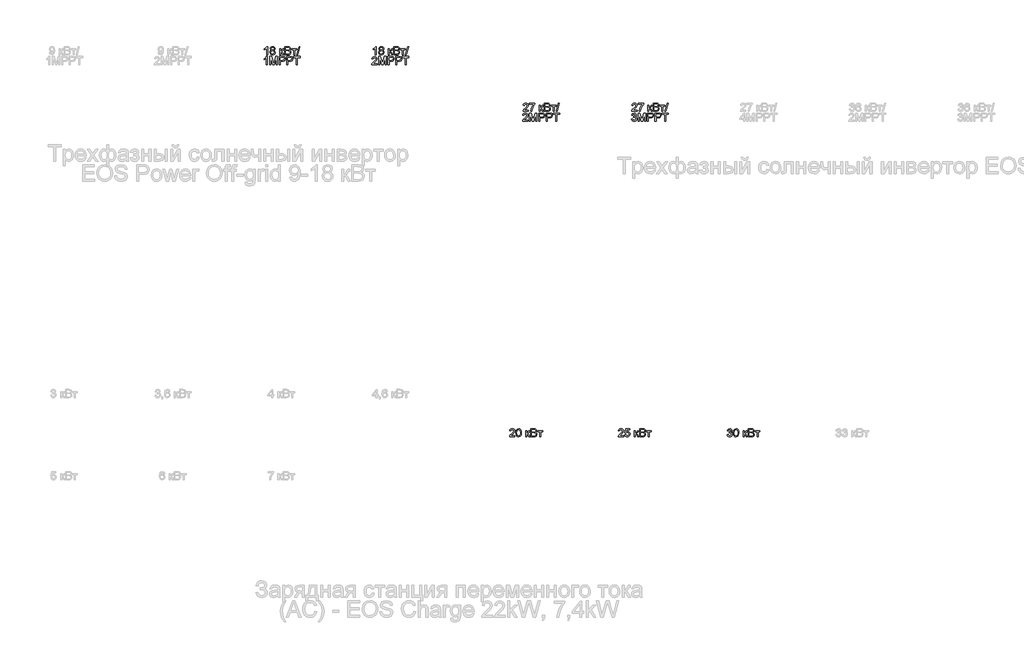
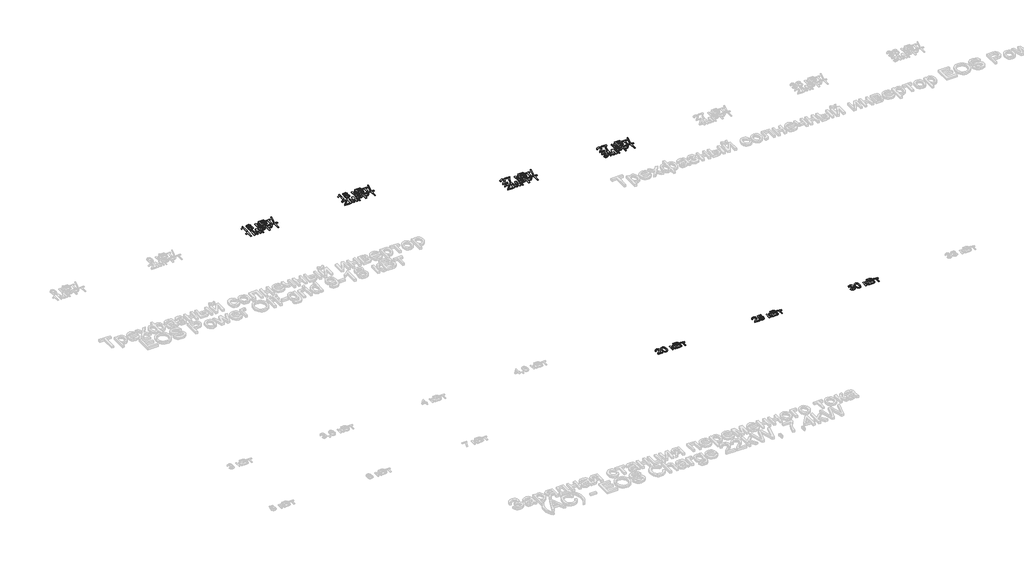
# One storey, part 6 of 26: 7 proxies.
"""IFC4 building model written with IfcOpenShell, lengths in millimetres."""

import ifcopenshell
import ifcopenshell.guid

model = None  # the IFC model being written
_history = None  # IfcOwnerHistory: only IFC2X3 demands one
_inside = {}  # id of a spatial element -> (the spatial element, [elements in it])
_under = {}  # id of a project, library or spatial element -> (it, [spatial elements below it])
_declared = {}  # id of a project -> (the project, [libraries it declares])
_typed = {}  # id of a type object -> (the type object, [elements of that type])
_made_of = {}  # id of a material, layer set ... -> (it, [elements and type objects made of it])


def new_model(schema):
    """Start an empty IFC model of exactly this schema.

    Asked for "IFC4X3", IfcOpenShell would pick the latest addendum, in which some entities
    have other attributes; the version numbers below select the first issue.
    IFC2X3 requires an IfcOwnerHistory on every rooted entity: one is made here for all.
    """
    global model, _history
    if schema == "IFC4X3":
        model = ifcopenshell.file(schema_version=(4, 3, 0, 0))
    else:
        model = ifcopenshell.file(schema=schema)
    _inside.clear()
    _under.clear()
    _declared.clear()
    _typed.clear()
    _made_of.clear()
    _history = None
    if model.schema == "IFC2X3":
        org = make("IfcOrganization", Name="unknown")
        user = make(
            "IfcPersonAndOrganization",
            ThePerson=make("IfcPerson", FamilyName="unknown"),
            TheOrganization=org,
        )
        app = make(
            "IfcApplication",
            ApplicationDeveloper=org,
            Version="unknown",
            ApplicationFullName="unknown",
            ApplicationIdentifier="unknown",
        )
        _history = make(
            "IfcOwnerHistory",
            OwningUser=user,
            OwningApplication=app,
            ChangeAction="ADDED",
            CreationDate=0,
        )
    return model


def make(cls, **values):
    """One entity of the class cls with the attributes given. An attribute that is None is left unset."""
    return model.create_entity(
        cls, **{name: value for name, value in values.items() if value is not None}
    )


def rooted(cls, **values):
    """An entity with a GlobalId (a new one), such as an element, a storey or a relation."""
    return make(cls, GlobalId=ifcopenshell.guid.new(), OwnerHistory=_history, **values)


def si_unit(unit_type, name, prefix=None):
    """IfcSIUnit, for example si_unit("LENGTHUNIT", "METRE", prefix="MILLI")."""
    return make("IfcSIUnit", UnitType=unit_type, Prefix=prefix, Name=name)


def assignment(units):
    """IfcUnitAssignment: the units of a project."""
    return None if units is None else make("IfcUnitAssignment", Units=units)


def point(xyz):
    """IfcCartesianPoint."""
    return None if xyz is None else make("IfcCartesianPoint", Coordinates=xyz)


def direction(xyz):
    """IfcDirection."""
    return None if xyz is None else make("IfcDirection", DirectionRatios=xyz)


def frame(location, z_axis=None, x_axis=None):
    """IfcAxis2Placement3D, a coordinate frame: its origin and axes. An axis left out is left unset."""
    return make(
        "IfcAxis2Placement3D",
        Location=point(location),
        Axis=direction(z_axis),
        RefDirection=direction(x_axis),
    )


def origin():
    """The frame at (0, 0, 0) with its axes left unset."""
    return frame((0.0, 0.0, 0.0))


def origin_with_axes():
    """The frame at (0, 0, 0) with the z axis (0, 0, 1) and the x axis (1, 0, 0) written out."""
    return frame((0.0, 0.0, 0.0), z_axis=(0.0, 0.0, 1.0), x_axis=(1.0, 0.0, 0.0))


def place(relative_to, where):
    """IfcLocalPlacement: puts the frame where relative to a parent placement (None: the world)."""
    return make(
        "IfcLocalPlacement", PlacementRelTo=relative_to, RelativePlacement=where
    )


def context(
    kind, dimensions, precision=None, world=None, true_north=None, identifier=None
):
    """IfcGeometricRepresentationContext, for example the 3D "Model" context."""
    return make(
        "IfcGeometricRepresentationContext",
        ContextIdentifier=identifier,
        ContextType=kind,
        CoordinateSpaceDimension=dimensions,
        Precision=precision,
        WorldCoordinateSystem=world,
        TrueNorth=true_north,
    )


def project(units=None, contexts=None):
    """IfcProject with its units and contexts."""
    return rooted(
        "IfcProject",
        Name="project",
        RepresentationContexts=contexts,
        UnitsInContext=assignment(units),
    )


def spatial(cls, under=None, at=None, **own):
    """A site, building, storey or space (cls), placed at a placement, below another one or the project."""
    s = rooted(cls, ObjectPlacement=at, **own)
    if under is not None:
        _under.setdefault(under.id(), (under, []))[1].append(s)
    return s


def polyline(points):
    """IfcPolyline through the points."""
    return make("IfcPolyline", Points=[point(p) for p in points])


def outline(outer, holes=None, kind="AREA"):
    """IfcArbitraryClosedProfileDef: a profile drawn as a closed curve; with holes, ...WithVoids."""
    if holes is None:
        return make("IfcArbitraryClosedProfileDef", ProfileType=kind, OuterCurve=outer)
    return make(
        "IfcArbitraryProfileDefWithVoids",
        ProfileType=kind,
        OuterCurve=outer,
        InnerCurves=holes,
    )


def extrude(swept, where, along, depth):
    """IfcExtrudedAreaSolid: the profile swept, set in the frame where, extruded along a direction by depth."""
    return make(
        "IfcExtrudedAreaSolid",
        SweptArea=swept,
        Position=where,
        ExtrudedDirection=direction(along),
        Depth=depth,
    )


def shape(context_of_items, identifier, shape_type, items):
    """IfcShapeRepresentation: the items that make up one representation, for example the "Body"."""
    return make(
        "IfcShapeRepresentation",
        ContextOfItems=context_of_items,
        RepresentationIdentifier=identifier,
        RepresentationType=shape_type,
        Items=items,
    )


def made_of(thing, what):
    """Note that an element or type object is made of a material, layer set ...; save() writes the relation."""
    if what is not None:
        _made_of.setdefault(what.id(), (what, []))[1].append(thing)
    return thing


def element(
    cls,
    number,
    at=None,
    inside=None,
    cuts=None,
    type_object=None,
    material=None,
    context=None,
    identifier="Body",
    shape_type=None,
    held_by="IfcProductDefinitionShape",
    body=None,
    shapes=None,
    **own,
):
    """One element of the class cls, such as IfcWall. Its Tag is "e" and its number.

    at: its placement. inside: the storey or other place that contains it. cuts: it is an
    opening in that element (IfcRelVoidsElement). A single representation is given by context,
    identifier, shape_type and body (its items); several are given by shapes. held_by: the class
    of the entity that holds the representations. save() writes the other relations.
    """
    e = rooted(cls, Tag="e%d" % number, ObjectPlacement=at, **own)
    if body is not None:
        shapes = [shape(context, identifier, shape_type, body)]
    if shapes is not None:
        e.Representation = make(held_by, Representations=shapes)
    if inside is not None:
        _inside.setdefault(inside.id(), (inside, []))[1].append(e)
    if cuts is not None:
        rooted(
            "IfcRelVoidsElement", RelatingBuildingElement=cuts, RelatedOpeningElement=e
        )
    if type_object is not None:
        _typed.setdefault(type_object.id(), (type_object, []))[1].append(e)
    return made_of(e, material)


def aggregate(whole, parts):
    """IfcRelAggregates: a whole, such as a stair, and the parts it consists of."""
    return rooted("IfcRelAggregates", RelatingObject=whole, RelatedObjects=parts)


def save(model, path):
    """Write the relations noted so far, then the file.

    IfcRelAggregates (storeys below a building ...), IfcRelContainedInSpatialStructure (elements
    in a storey), IfcRelDefinesByType, IfcRelAssociatesMaterial and IfcRelDeclares: one each for
    every whole, place, type object, material and project.
    """
    for whole, parts in _under.values():
        aggregate(whole, parts)
    for where, things in _inside.values():
        rooted(
            "IfcRelContainedInSpatialStructure",
            RelatedElements=things,
            RelatingStructure=where,
        )
    for kind, things in _typed.values():
        rooted("IfcRelDefinesByType", RelatedObjects=things, RelatingType=kind)
    for what, things in _made_of.values():
        rooted("IfcRelAssociatesMaterial", RelatedObjects=things, RelatingMaterial=what)
    for by, libraries in _declared.values():
        rooted("IfcRelDeclares", RelatingContext=by, RelatedDefinitions=libraries)
    model.write(path)


model = new_model("IFC4")

# Units and contexts
model_context = context("Model", 3, world=origin())
ifc_project = project(units=[si_unit("LENGTHUNIT", "METRE", prefix="MILLI")], contexts=[model_context])

# Site, building, storey
site = spatial("IfcSite", under=ifc_project)
building = spatial("IfcBuilding", under=site)
storey = spatial("IfcBuildingStorey", under=building, Name="Этаж 01", Elevation=0.0)

# Proxies
placement = place(None, origin())
element("IfcBuildingElementProxy", 1, Name="75 мм Arial", ObjectType="75 мм Arial", at=placement, inside=storey, context=model_context, shape_type="SweptSolid", body=[
    extrude(outline(polyline([(5131.8157021, -19645.2842708), (5131.8157021, -19654.7020499), (5082.3723619, -19654.7020499), (5083.3840374, -19648.2089327), (5089.1046024, -19638.2117395), (5100.8952204, -19627.2948413), (5117.1556046, -19611.6046742), (5121.2207006, -19600.9360963), (5117.3855308, -19592.3000665), (5107.3699435, -19588.7775964), (5096.9312919, -19592.217293), (5092.9673634, -19601.7270426), (5083.5495843, -19600.5498202), (5085.8327519, -19591.4401423), (5090.7692685, -19584.7860767), (5098.1016165, -19580.7163821), (5107.5722786, -19579.3598173), (5117.1119186, -19580.8681335), (5124.430471, -19585.393082), (5129.0864775, -19592.1529137), (5130.6384797, -19600.3658792), (5128.9646166, -19609.2962146), (5123.4004014, -19618.5300527), (5109.9083293, -19631.4335137), (5099.0742045, -19640.4926078), (5094.8251675, -19645.2842708), (5131.8157021, -19645.2842708)])), origin_with_axes(), (0.0, 0.0, 1.0), 5.0),
    extrude(outline(polyline([(5141.2334812, -19617.6379389), (5144.0017932, -19595.9604923), (5152.2239558, -19583.4617015), (5165.9551512, -19579.3598173), (5176.9548229, -19581.7878385), (5184.5515861, -19588.7867934), (5188.96617, -19599.9336179), (5190.6768213, -19617.6379389), (5187.9361004, -19639.223415), (5179.741529, -19651.7497969), (5165.9551512, -19655.8792723), (5156.1694902, -19654.0858476), (5148.7382739, -19648.7055734), (5143.1096793, -19635.9630608), (5141.2334812, -19617.6379389)]), holes=[polyline([(5150.6512602, -19617.6195448), (5151.7549062, -19632.4336929), (5155.0658442, -19641.0076426), (5165.9551512, -19646.4614932), (5176.8444583, -19640.9892485), (5180.1553962, -19632.4107003), (5181.2590422, -19617.6195448), (5176.9916111, -19594.4981614), (5165.8447866, -19588.7775964), (5155.212997, -19593.8175797), (5151.7916944, -19602.9962355), (5150.6512602, -19617.6195448)])]), origin_with_axes(), (0.0, 0.0, 1.0), 5.0),
    extrude(outline(polyline([(5230.7023824, -19599.3725978), (5240.1201615, -19599.3725978), (5240.1201615, -19622.9170455), (5246.4293377, -19621.2247883), (5251.5980797, -19611.3655509), (5255.893102, -19602.8582797), (5259.6822866, -19600.0899677), (5266.5708769, -19599.3725978), (5268.3734987, -19599.3725978), (5268.3734987, -19608.8455592), (5265.8351129, -19608.7903769), (5261.236588, -19609.7836583), (5257.9992264, -19615.9824699), (5254.2008448, -19622.6871193), (5248.8757529, -19625.9704661), (5260.6479768, -19637.3564138), (5270.7279435, -19654.7020499), (5260.0225774, -19654.7020499), (5250.1449458, -19637.7242958), (5245.1785389, -19630.5413999), (5240.1201615, -19628.8031574), (5240.1201615, -19654.7020499), (5230.7023824, -19654.7020499), (5230.7023824, -19599.3725978)])), origin_with_axes(), (0.0, 0.0, 1.0), 5.0),
    extrude(outline(polyline([(5277.7912778, -19654.7020499), (5277.7912778, -19579.3598173), (5306.5412557, -19579.3598173), (5320.6219391, -19581.5763063), (5328.9360721, -19588.3913203), (5331.9435075, -19598.0298285), (5329.4143187, -19606.8314053), (5321.7715703, -19613.4992664), (5331.0513936, -19620.5258125), (5334.2979522, -19632.2428541), (5332.0814632, -19642.368806), (5326.5908244, -19649.5792931), (5318.396253, -19653.4052659), (5306.3205265, -19654.7020499), (5277.7912778, -19654.7020499)]), holes=[polyline([(5287.2090568, -19645.2842708), (5306.5228616, -19645.2842708), (5313.5126195, -19644.9163888), (5319.4263226, -19642.8654467), (5323.3442658, -19638.680789), (5324.8801731, -19632.3348246), (5323.0775514, -19625.0139729), (5317.2374247, -19620.6453742), (5305.6031566, -19619.3853784), (5287.2090568, -19619.3853784), (5287.2090568, -19645.2842708)]), polyline([(5287.2090568, -19609.9675993), (5304.4075401, -19609.9675993), (5314.4507186, -19609.1582589), (5320.4931804, -19605.672577), (5322.5257284, -19599.5381447), (5320.6311361, -19593.3945154), (5315.2048767, -19589.7616807), (5303.101559, -19588.7775964), (5287.2090568, -19588.7775964), (5287.2090568, -19609.9675993)])]), origin_with_axes(), (0.0, 0.0, 1.0), 5.0),
    extrude(outline(polyline([(5341.3612865, -19599.3725978), (5386.0957371, -19599.3725978), (5386.0957371, -19608.7903769), (5368.4374014, -19608.7903769), (5368.4374014, -19654.7020499), (5359.0196223, -19654.7020499), (5359.0196223, -19608.7903769), (5341.3612865, -19608.7903769), (5341.3612865, -19599.3725978)])), origin_with_axes(), (0.0, 0.0, 1.0), 5.0),
])
element("IfcBuildingElementProxy", 2, Name="75 мм Arial", ObjectType="75 мм Arial", at=placement, inside=storey, context=model_context, shape_type="SweptSolid", body=[
    extrude(outline(polyline([(6131.8157021, -19645.2842708), (6131.8157021, -19654.7020499), (6082.3723619, -19654.7020499), (6083.3840374, -19648.2089327), (6089.1046024, -19638.2117395), (6100.8952204, -19627.2948413), (6117.1556046, -19611.6046742), (6121.2207006, -19600.9360963), (6117.3855308, -19592.3000665), (6107.3699435, -19588.7775964), (6096.9312919, -19592.217293), (6092.9673634, -19601.7270426), (6083.5495843, -19600.5498202), (6085.8327519, -19591.4401423), (6090.7692685, -19584.7860767), (6098.1016165, -19580.7163821), (6107.5722786, -19579.3598173), (6117.1119186, -19580.8681335), (6124.430471, -19585.393082), (6129.0864775, -19592.1529137), (6130.6384797, -19600.3658792), (6128.9646166, -19609.2962146), (6123.4004014, -19618.5300527), (6109.9083293, -19631.4335137), (6099.0742045, -19640.4926078), (6094.8251675, -19645.2842708), (6131.8157021, -19645.2842708)])), origin_with_axes(), (0.0, 0.0, 1.0), 5.0),
    extrude(outline(polyline([(6141.2334812, -19634.6892694), (6150.6512602, -19633.512047), (6155.396938, -19643.2149346), (6165.2377813, -19646.4614932), (6177.0467934, -19641.9457417), (6181.2590422, -19629.9619857), (6177.3135078, -19618.7783731), (6165.3849341, -19614.6764888), (6157.1167863, -19616.3135637), (6151.8284826, -19620.5626007), (6142.4107035, -19619.3853784), (6150.6512602, -19580.5370397), (6187.1451542, -19580.5370397), (6187.1451542, -19589.9548187), (6158.2664175, -19589.9548187), (6154.2381097, -19610.7033633), (6168.0152904, -19605.2587097), (6176.8145679, -19606.9463684), (6184.1193247, -19612.0093444), (6189.0374472, -19619.7256692), (6190.6768213, -19629.3733745), (6189.2006948, -19638.7911536), (6184.7723153, -19646.8477693), (6176.2926353, -19653.6213965), (6165.2009931, -19655.8792723), (6155.9510602, -19654.4284377), (6148.581924, -19650.0759338), (6143.5304444, -19643.3275985), (6141.2334812, -19634.6892694)])), origin_with_axes(), (0.0, 0.0, 1.0), 5.0),
    extrude(outline(polyline([(6230.7023824, -19599.3725978), (6240.1201615, -19599.3725978), (6240.1201615, -19622.9170455), (6246.4293377, -19621.2247883), (6251.5980797, -19611.3655509), (6255.893102, -19602.8582797), (6259.6822866, -19600.0899677), (6266.5708769, -19599.3725978), (6268.3734987, -19599.3725978), (6268.3734987, -19608.8455592), (6265.8351129, -19608.7903769), (6261.236588, -19609.7836583), (6257.9992264, -19615.9824699), (6254.2008448, -19622.6871193), (6248.8757529, -19625.9704661), (6260.6479768, -19637.3564138), (6270.7279435, -19654.7020499), (6260.0225774, -19654.7020499), (6250.1449458, -19637.7242958), (6245.1785389, -19630.5413999), (6240.1201615, -19628.8031574), (6240.1201615, -19654.7020499), (6230.7023824, -19654.7020499), (6230.7023824, -19599.3725978)])), origin_with_axes(), (0.0, 0.0, 1.0), 5.0),
    extrude(outline(polyline([(6277.7912778, -19654.7020499), (6277.7912778, -19579.3598173), (6306.5412557, -19579.3598173), (6320.6219391, -19581.5763063), (6328.9360721, -19588.3913203), (6331.9435075, -19598.0298285), (6329.4143187, -19606.8314053), (6321.7715703, -19613.4992664), (6331.0513936, -19620.5258125), (6334.2979522, -19632.2428541), (6332.0814632, -19642.368806), (6326.5908244, -19649.5792931), (6318.396253, -19653.4052659), (6306.3205265, -19654.7020499), (6277.7912778, -19654.7020499)]), holes=[polyline([(6287.2090568, -19645.2842708), (6306.5228616, -19645.2842708), (6313.5126195, -19644.9163888), (6319.4263226, -19642.8654467), (6323.3442658, -19638.680789), (6324.8801731, -19632.3348246), (6323.0775514, -19625.0139729), (6317.2374247, -19620.6453742), (6305.6031566, -19619.3853784), (6287.2090568, -19619.3853784), (6287.2090568, -19645.2842708)]), polyline([(6287.2090568, -19609.9675993), (6304.4075401, -19609.9675993), (6314.4507186, -19609.1582589), (6320.4931804, -19605.672577), (6322.5257284, -19599.5381447), (6320.6311361, -19593.3945154), (6315.2048767, -19589.7616807), (6303.101559, -19588.7775964), (6287.2090568, -19588.7775964), (6287.2090568, -19609.9675993)])]), origin_with_axes(), (0.0, 0.0, 1.0), 5.0),
    extrude(outline(polyline([(6341.3612865, -19599.3725978), (6386.0957371, -19599.3725978), (6386.0957371, -19608.7903769), (6368.4374014, -19608.7903769), (6368.4374014, -19654.7020499), (6359.0196223, -19654.7020499), (6359.0196223, -19608.7903769), (6341.3612865, -19608.7903769), (6341.3612865, -19599.3725978)])), origin_with_axes(), (0.0, 0.0, 1.0), 5.0),
])
element("IfcBuildingElementProxy", 3, Name="75 мм Arial", ObjectType="75 мм Arial", at=placement, inside=storey, context=model_context, shape_type="SweptSolid", body=[
    extrude(outline(polyline([(7083.027027, -19634.6892694), (7092.444806, -19633.512047), (7097.6411392, -19643.4264667), (7107.3624209, -19646.4614932), (7118.803551, -19642.2860326), (7123.052588, -19631.9485485), (7118.8403392, -19622.2088727), (7108.1349731, -19618.3553088), (7101.5314913, -19619.3853784), (7102.579955, -19609.9675993), (7114.7752431, -19607.3740312), (7119.5209209, -19599.0598981), (7116.0812242, -19591.6930612), (7107.2152681, -19588.7775964), (7098.2389475, -19591.7206523), (7093.6220284, -19600.5498202), (7084.2042493, -19599.3725978), (7091.9113771, -19584.6021357), (7106.8841743, -19579.3598173), (7118.2425309, -19581.9441883), (7126.188782, -19589.0075226), (7128.9387, -19598.5080751), (7126.3267378, -19607.1900902), (7118.6012159, -19613.42569), (7128.8651236, -19619.863625), (7132.4703671, -19632.1140954), (7130.6677453, -19641.2927512), (7125.25988, -19648.9630908), (7117.0974982, -19654.1502269), (7107.0313271, -19655.8792723), (7097.9262478, -19654.4031458), (7090.5134256, -19649.9747663), (7085.3584791, -19643.201139), (7083.027027, -19634.6892694)])), origin_with_axes(), (0.0, 0.0, 1.0), 5.0),
    extrude(outline(polyline([(7140.7109238, -19617.6379389), (7143.4792358, -19595.9604923), (7151.7013984, -19583.4617015), (7165.4325939, -19579.3598173), (7176.4322655, -19581.7878385), (7184.0290287, -19588.7867934), (7188.4436127, -19599.9336179), (7190.154264, -19617.6379389), (7187.4135431, -19639.223415), (7179.2189716, -19651.7497969), (7165.4325939, -19655.8792723), (7155.6469328, -19654.0858476), (7148.2157165, -19648.7055734), (7142.587122, -19635.9630608), (7140.7109238, -19617.6379389)]), holes=[polyline([(7150.1287029, -19617.6195448), (7151.2323489, -19632.4336929), (7154.5432868, -19641.0076426), (7165.4325939, -19646.4614932), (7176.3219009, -19640.9892485), (7179.6328389, -19632.4107003), (7180.7364849, -19617.6195448), (7176.4690537, -19594.4981614), (7165.3222293, -19588.7775964), (7154.6904396, -19593.8175797), (7151.2691371, -19602.9962355), (7150.1287029, -19617.6195448)])]), origin_with_axes(), (0.0, 0.0, 1.0), 5.0),
    extrude(outline(polyline([(7230.179825, -19599.3725978), (7239.5976041, -19599.3725978), (7239.5976041, -19622.9170455), (7245.9067803, -19621.2247883), (7251.0755224, -19611.3655509), (7255.3705447, -19602.8582797), (7259.1597292, -19600.0899677), (7266.0483196, -19599.3725978), (7267.8509413, -19599.3725978), (7267.8509413, -19608.8455592), (7265.3125556, -19608.7903769), (7260.7140306, -19609.7836583), (7257.4766691, -19615.9824699), (7253.6782875, -19622.6871193), (7248.3531956, -19625.9704661), (7260.1254194, -19637.3564138), (7270.2053861, -19654.7020499), (7259.50002, -19654.7020499), (7249.6223885, -19637.7242958), (7244.6559815, -19630.5413999), (7239.5976041, -19628.8031574), (7239.5976041, -19654.7020499), (7230.179825, -19654.7020499), (7230.179825, -19599.3725978)])), origin_with_axes(), (0.0, 0.0, 1.0), 5.0),
    extrude(outline(polyline([(7277.2687204, -19654.7020499), (7277.2687204, -19579.3598173), (7306.0186983, -19579.3598173), (7320.0993817, -19581.5763063), (7328.4135148, -19588.3913203), (7331.4209501, -19598.0298285), (7328.8917614, -19606.8314053), (7321.2490129, -19613.4992664), (7330.5288363, -19620.5258125), (7333.7753949, -19632.2428541), (7331.5589059, -19642.368806), (7326.0682671, -19649.5792931), (7317.8736956, -19653.4052659), (7305.7979691, -19654.7020499), (7277.2687204, -19654.7020499)]), holes=[polyline([(7286.6864995, -19645.2842708), (7306.0003042, -19645.2842708), (7312.9900621, -19644.9163888), (7318.9037652, -19642.8654467), (7322.8217085, -19638.680789), (7324.3576158, -19632.3348246), (7322.554994, -19625.0139729), (7316.7148673, -19620.6453742), (7305.0805992, -19619.3853784), (7286.6864995, -19619.3853784), (7286.6864995, -19645.2842708)]), polyline([(7286.6864995, -19609.9675993), (7303.8849828, -19609.9675993), (7313.9281612, -19609.1582589), (7319.970623, -19605.672577), (7322.003171, -19599.5381447), (7320.1085788, -19593.3945154), (7314.6823193, -19589.7616807), (7302.5790017, -19588.7775964), (7286.6864995, -19588.7775964), (7286.6864995, -19609.9675993)])]), origin_with_axes(), (0.0, 0.0, 1.0), 5.0),
    extrude(outline(polyline([(7340.8387292, -19599.3725978), (7385.5731798, -19599.3725978), (7385.5731798, -19608.7903769), (7367.914844, -19608.7903769), (7367.914844, -19654.7020499), (7358.4970649, -19654.7020499), (7358.4970649, -19608.7903769), (7340.8387292, -19608.7903769), (7340.8387292, -19599.3725978)])), origin_with_axes(), (0.0, 0.0, 1.0), 5.0),
])
element("IfcBuildingElementProxy", 4, Name="75 мм Arial", ObjectType="75 мм Arial", at=placement, inside=storey, context=model_context, shape_type="SweptSolid", body=[
    extrude(outline(polyline([(2856.8752257, -16141.5170063), (2847.4574467, -16141.5170063), (2847.4574467, -16082.8030399), (2838.5363083, -16089.1582014), (2828.6218885, -16093.9130761), (2828.6218885, -16085.0103319), (2842.4266604, -16076.1995581), (2850.8051728, -16066.1747737), (2856.8752257, -16066.1747737), (2856.8752257, -16141.5170063)])), origin_with_axes(), (0.0, 0.0, 1.0), 5.0),
    extrude(outline(polyline([(2892.9644495, -16100.0199173), (2884.3836019, -16094.1705935), (2881.5968958, -16085.0655142), (2883.114409, -16077.7032757), (2887.6669487, -16071.6194272), (2894.7440786, -16067.5359371), (2903.8353624, -16066.1747737), (2912.9818285, -16067.5681268), (2920.1509289, -16071.7481859), (2924.786242, -16077.9286035), (2926.3313464, -16085.3230316), (2923.5814285, -16094.1981847), (2915.2397043, -16100.0199173), (2925.2552916, -16107.4051483), (2928.6857912, -16119.5912394), (2926.984337, -16128.5951512), (2921.8799743, -16136.0355646), (2913.9981025, -16141.0295627), (2903.9641211, -16142.6942287), (2893.9301397, -16141.0226649), (2886.048268, -16136.0079734), (2880.9439053, -16128.496283), (2879.242451, -16119.333722), (2882.8109064, -16106.8625224), (2892.9644495, -16100.0199173)]), holes=[polyline([(2888.6602301, -16119.0026282), (2890.2329256, -16126.0935537), (2895.7971408, -16131.4002515), (2904.0376975, -16133.2764496), (2915.2580984, -16129.3309152), (2919.2680121, -16119.2969338), (2915.1293397, -16109.0698143), (2903.7249978, -16105.0231124), (2892.6425527, -16109.014632), (2888.6602301, -16119.0026282)]), polyline([(2891.0146749, -16085.3414257), (2894.353204, -16092.7358538), (2904.0744857, -16095.6053333), (2913.6026294, -16092.7542479), (2916.9135673, -16085.76449), (2913.4922648, -16078.5264117), (2903.9641211, -16075.5925528), (2894.4083863, -16078.4620323), (2891.0146749, -16085.3414257)])]), origin_with_axes(), (0.0, 0.0, 1.0), 5.0),
    extrude(outline(polyline([(2968.7113523, -16086.1875542), (2978.1291313, -16086.1875542), (2978.1291313, -16109.7320019), (2984.4383076, -16108.0397448), (2989.6070496, -16098.1805073), (2993.9020719, -16089.6732362), (2997.6912564, -16086.9049241), (3004.5798468, -16086.1875542), (3006.3824686, -16086.1875542), (3006.3824686, -16095.6605156), (3003.8440828, -16095.6053333), (2999.2455579, -16096.5986147), (2996.0081963, -16102.7974263), (2992.2098147, -16109.5020757), (2986.8847228, -16112.7854225), (2998.6569467, -16124.1713703), (3008.7369133, -16141.5170063), (2998.0315473, -16141.5170063), (2988.1539157, -16124.5392522), (2983.1875088, -16117.3563563), (2978.1291313, -16115.6181139), (2978.1291313, -16141.5170063), (2968.7113523, -16141.5170063), (2968.7113523, -16086.1875542)])), origin_with_axes(), (0.0, 0.0, 1.0), 5.0),
    extrude(outline(polyline([(3015.8002476, -16141.5170063), (3015.8002476, -16066.1747737), (3044.5502256, -16066.1747737), (3058.6309089, -16068.3912627), (3066.945042, -16075.2062767), (3069.9524773, -16084.844785), (3067.4232886, -16093.6463617), (3059.7805402, -16100.3142229), (3069.0603635, -16107.340769), (3072.3069221, -16119.0578105), (3070.0904331, -16129.1837624), (3064.5997943, -16136.3942495), (3056.4052229, -16140.2202223), (3044.3294964, -16141.5170063), (3015.8002476, -16141.5170063)]), holes=[polyline([(3025.2180267, -16132.0992272), (3044.5318315, -16132.0992272), (3051.5215894, -16131.7313453), (3057.4352925, -16129.6804031), (3061.3532357, -16125.4957454), (3062.889143, -16119.149781), (3061.0865213, -16111.8289293), (3055.2463946, -16107.4603306), (3043.6121265, -16106.2003348), (3025.2180267, -16106.2003348), (3025.2180267, -16132.0992272)]), polyline([(3025.2180267, -16096.7825557), (3042.41651, -16096.7825557), (3052.4596885, -16095.9732153), (3058.5021502, -16092.4875334), (3060.5346983, -16086.3531011), (3058.640106, -16080.2094718), (3053.2138466, -16076.5766371), (3041.1105289, -16075.5925528), (3025.2180267, -16075.5925528), (3025.2180267, -16096.7825557)])]), origin_with_axes(), (0.0, 0.0, 1.0), 5.0),
    extrude(outline(polyline([(3079.3702564, -16086.1875542), (3124.104707, -16086.1875542), (3124.104707, -16095.6053333), (3106.4463713, -16095.6053333), (3106.4463713, -16141.5170063), (3097.0285922, -16141.5170063), (3097.0285922, -16095.6053333), (3079.3702564, -16095.6053333), (3079.3702564, -16086.1875542)])), origin_with_axes(), (0.0, 0.0, 1.0), 5.0),
    extrude(outline(polyline([(3125.2819294, -16141.5170063), (3146.4719323, -16066.1747737), (3154.9700064, -16066.1747737), (3133.7800035, -16141.5170063), (3125.2819294, -16141.5170063)])), origin_with_axes(), (0.0, 0.0, 1.0), 5.0),
    extrude(outline(polyline([(2852.7549474, -16232.9981197), (2843.3371683, -16232.9981197), (2843.3371683, -16174.2841533), (2834.4160299, -16180.6393147), (2824.5016102, -16185.3941895), (2824.5016102, -16176.4914452), (2838.306382, -16167.6806715), (2846.6848945, -16157.6558871), (2852.7549474, -16157.6558871), (2852.7549474, -16232.9981197)])), origin_with_axes(), (0.0, 0.0, 1.0), 5.0),
    extrude(outline(polyline([(2878.6538398, -16232.9981197), (2878.6538398, -16157.6558871), (2894.8590417, -16157.6558871), (2910.2732973, -16210.7596531), (2913.3819002, -16221.8512953), (2916.7480204, -16209.8399481), (2931.9047586, -16157.6558871), (2948.1099605, -16157.6558871), (2948.1099605, -16232.9981197), (2938.6921815, -16232.9981197), (2938.6921815, -16167.0736662), (2919.7646528, -16232.9981197), (2906.9991476, -16232.9981197), (2888.0716189, -16167.0736662), (2888.0716189, -16232.9981197), (2878.6538398, -16232.9981197)])), origin_with_axes(), (0.0, 0.0, 1.0), 5.0),
    extrude(outline(polyline([(2964.5910739, -16232.9981197), (2964.5910739, -16157.6558871), (2992.5133174, -16157.6558871), (3003.7705064, -16158.373257), (3012.921571, -16161.8957271), (3018.8536682, -16169.1797906), (3021.0977484, -16179.4528953), (3019.5825344, -16188.332647), (3015.0368925, -16195.7316736), (3006.5365192, -16200.7256717), (2993.1571108, -16202.3903377), (2974.008853, -16202.3903377), (2974.008853, -16232.9981197), (2964.5910739, -16232.9981197)]), holes=[polyline([(2974.008853, -16192.9725586), (2993.7089338, -16192.9725586), (3007.5780851, -16189.5144679), (3011.6799693, -16179.7839891), (3009.2611452, -16171.9848908), (3002.9059837, -16167.7174597), (2993.4882046, -16167.0736662), (2974.008853, -16167.0736662), (2974.008853, -16192.9725586)])]), origin_with_axes(), (0.0, 0.0, 1.0), 5.0),
    extrude(outline(polyline([(3034.0471946, -16232.9981197), (3034.0471946, -16157.6558871), (3061.969438, -16157.6558871), (3073.2266271, -16158.373257), (3082.3776917, -16161.8957271), (3088.3097889, -16169.1797906), (3090.5538691, -16179.4528953), (3089.0386551, -16188.332647), (3084.4930132, -16195.7316736), (3075.9926398, -16200.7256717), (3062.6132315, -16202.3903377), (3043.4649737, -16202.3903377), (3043.4649737, -16232.9981197), (3034.0471946, -16232.9981197)]), holes=[polyline([(3043.4649737, -16192.9725586), (3063.1650545, -16192.9725586), (3077.0342057, -16189.5144679), (3081.13609, -16179.7839891), (3078.7172659, -16171.9848908), (3072.3621044, -16167.7174597), (3062.9443253, -16167.0736662), (3043.4649737, -16167.0736662), (3043.4649737, -16192.9725586)])]), origin_with_axes(), (0.0, 0.0, 1.0), 5.0),
    extrude(outline(polyline([(3122.3388735, -16232.9981197), (3122.3388735, -16167.0736662), (3097.6172034, -16167.0736662), (3097.6172034, -16157.6558871), (3156.4783226, -16157.6558871), (3156.4783226, -16167.0736662), (3131.7566525, -16167.0736662), (3131.7566525, -16232.9981197), (3122.3388735, -16232.9981197)])), origin_with_axes(), (0.0, 0.0, 1.0), 5.0),
])
element("IfcBuildingElementProxy", 5, Name="75 мм Arial", ObjectType="75 мм Arial", at=placement, inside=storey, context=model_context, shape_type="SweptSolid", body=[
    extrude(outline(polyline([(3856.8752257, -16141.5170063), (3847.4574467, -16141.5170063), (3847.4574467, -16082.8030399), (3838.5363083, -16089.1582014), (3828.6218885, -16093.9130761), (3828.6218885, -16085.0103319), (3842.4266604, -16076.1995581), (3850.8051728, -16066.1747737), (3856.8752257, -16066.1747737), (3856.8752257, -16141.5170063)])), origin_with_axes(), (0.0, 0.0, 1.0), 5.0),
    extrude(outline(polyline([(3892.9644495, -16100.0199173), (3884.3836019, -16094.1705935), (3881.5968958, -16085.0655142), (3883.114409, -16077.7032757), (3887.6669487, -16071.6194272), (3894.7440786, -16067.5359371), (3903.8353624, -16066.1747737), (3912.9818285, -16067.5681268), (3920.1509289, -16071.7481859), (3924.786242, -16077.9286035), (3926.3313464, -16085.3230316), (3923.5814285, -16094.1981847), (3915.2397043, -16100.0199173), (3925.2552916, -16107.4051483), (3928.6857912, -16119.5912394), (3926.984337, -16128.5951512), (3921.8799743, -16136.0355646), (3913.9981025, -16141.0295627), (3903.9641211, -16142.6942287), (3893.9301397, -16141.0226649), (3886.048268, -16136.0079734), (3880.9439053, -16128.496283), (3879.242451, -16119.333722), (3882.8109064, -16106.8625224), (3892.9644495, -16100.0199173)]), holes=[polyline([(3888.6602301, -16119.0026282), (3890.2329256, -16126.0935537), (3895.7971408, -16131.4002515), (3904.0376975, -16133.2764496), (3915.2580984, -16129.3309152), (3919.2680121, -16119.2969338), (3915.1293397, -16109.0698143), (3903.7249978, -16105.0231124), (3892.6425527, -16109.014632), (3888.6602301, -16119.0026282)]), polyline([(3891.0146749, -16085.3414257), (3894.353204, -16092.7358538), (3904.0744857, -16095.6053333), (3913.6026294, -16092.7542479), (3916.9135673, -16085.76449), (3913.4922648, -16078.5264117), (3903.9641211, -16075.5925528), (3894.4083863, -16078.4620323), (3891.0146749, -16085.3414257)])]), origin_with_axes(), (0.0, 0.0, 1.0), 5.0),
    extrude(outline(polyline([(3968.7113523, -16086.1875542), (3978.1291313, -16086.1875542), (3978.1291313, -16109.7320019), (3984.4383076, -16108.0397448), (3989.6070496, -16098.1805073), (3993.9020719, -16089.6732362), (3997.6912564, -16086.9049241), (4004.5798468, -16086.1875542), (4006.3824686, -16086.1875542), (4006.3824686, -16095.6605156), (4003.8440828, -16095.6053333), (3999.2455579, -16096.5986147), (3996.0081963, -16102.7974263), (3992.2098147, -16109.5020757), (3986.8847228, -16112.7854225), (3998.6569467, -16124.1713703), (4008.7369133, -16141.5170063), (3998.0315473, -16141.5170063), (3988.1539157, -16124.5392522), (3983.1875088, -16117.3563563), (3978.1291313, -16115.6181139), (3978.1291313, -16141.5170063), (3968.7113523, -16141.5170063), (3968.7113523, -16086.1875542)])), origin_with_axes(), (0.0, 0.0, 1.0), 5.0),
    extrude(outline(polyline([(4015.8002476, -16141.5170063), (4015.8002476, -16066.1747737), (4044.5502256, -16066.1747737), (4058.6309089, -16068.3912627), (4066.945042, -16075.2062767), (4069.9524773, -16084.844785), (4067.4232886, -16093.6463617), (4059.7805402, -16100.3142229), (4069.0603635, -16107.340769), (4072.3069221, -16119.0578105), (4070.0904331, -16129.1837624), (4064.5997943, -16136.3942495), (4056.4052229, -16140.2202223), (4044.3294964, -16141.5170063), (4015.8002476, -16141.5170063)]), holes=[polyline([(4025.2180267, -16132.0992272), (4044.5318315, -16132.0992272), (4051.5215894, -16131.7313453), (4057.4352925, -16129.6804031), (4061.3532357, -16125.4957454), (4062.889143, -16119.149781), (4061.0865213, -16111.8289293), (4055.2463946, -16107.4603306), (4043.6121265, -16106.2003348), (4025.2180267, -16106.2003348), (4025.2180267, -16132.0992272)]), polyline([(4025.2180267, -16096.7825557), (4042.41651, -16096.7825557), (4052.4596885, -16095.9732153), (4058.5021502, -16092.4875334), (4060.5346983, -16086.3531011), (4058.640106, -16080.2094718), (4053.2138466, -16076.5766371), (4041.1105289, -16075.5925528), (4025.2180267, -16075.5925528), (4025.2180267, -16096.7825557)])]), origin_with_axes(), (0.0, 0.0, 1.0), 5.0),
    extrude(outline(polyline([(4079.3702564, -16086.1875542), (4124.104707, -16086.1875542), (4124.104707, -16095.6053333), (4106.4463713, -16095.6053333), (4106.4463713, -16141.5170063), (4097.0285922, -16141.5170063), (4097.0285922, -16095.6053333), (4079.3702564, -16095.6053333), (4079.3702564, -16086.1875542)])), origin_with_axes(), (0.0, 0.0, 1.0), 5.0),
    extrude(outline(polyline([(4125.2819294, -16141.5170063), (4146.4719323, -16066.1747737), (4154.9700064, -16066.1747737), (4133.7800035, -16141.5170063), (4125.2819294, -16141.5170063)])), origin_with_axes(), (0.0, 0.0, 1.0), 5.0),
    extrude(outline(polyline([(3865.7043936, -16223.5803406), (3865.7043936, -16232.9981197), (3816.2610535, -16232.9981197), (3817.272729, -16226.5050025), (3822.993294, -16216.5078093), (3834.7839119, -16205.5909111), (3851.0442961, -16189.900744), (3855.1093922, -16179.2321661), (3851.2742224, -16170.5961363), (3841.258635, -16167.0736662), (3830.8199834, -16170.5133628), (3826.8560549, -16180.0231124), (3817.4382759, -16178.84589), (3819.7214435, -16169.7362121), (3824.65796, -16163.0821465), (3831.990308, -16159.012452), (3841.4609701, -16157.6558871), (3851.0006101, -16159.1642033), (3858.3191626, -16163.6891518), (3862.9751691, -16170.4489835), (3864.5271712, -16178.661949), (3862.8533082, -16187.5922845), (3857.289093, -16196.8261225), (3843.7970208, -16209.7295835), (3832.962896, -16218.7886776), (3828.713859, -16223.5803406), (3865.7043936, -16223.5803406)])), origin_with_axes(), (0.0, 0.0, 1.0), 5.0),
    extrude(outline(polyline([(3878.6538398, -16232.9981197), (3878.6538398, -16157.6558871), (3894.8590417, -16157.6558871), (3910.2732973, -16210.7596531), (3913.3819002, -16221.8512953), (3916.7480204, -16209.8399481), (3931.9047586, -16157.6558871), (3948.1099605, -16157.6558871), (3948.1099605, -16232.9981197), (3938.6921815, -16232.9981197), (3938.6921815, -16167.0736662), (3919.7646528, -16232.9981197), (3906.9991476, -16232.9981197), (3888.0716189, -16167.0736662), (3888.0716189, -16232.9981197), (3878.6538398, -16232.9981197)])), origin_with_axes(), (0.0, 0.0, 1.0), 5.0),
    extrude(outline(polyline([(3964.5910739, -16232.9981197), (3964.5910739, -16157.6558871), (3992.5133174, -16157.6558871), (4003.7705064, -16158.373257), (4012.921571, -16161.8957271), (4018.8536682, -16169.1797906), (4021.0977484, -16179.4528953), (4019.5825344, -16188.332647), (4015.0368925, -16195.7316736), (4006.5365192, -16200.7256717), (3993.1571108, -16202.3903377), (3974.008853, -16202.3903377), (3974.008853, -16232.9981197), (3964.5910739, -16232.9981197)]), holes=[polyline([(3974.008853, -16192.9725586), (3993.7089338, -16192.9725586), (4007.5780851, -16189.5144679), (4011.6799693, -16179.7839891), (4009.2611452, -16171.9848908), (4002.9059837, -16167.7174597), (3993.4882046, -16167.0736662), (3974.008853, -16167.0736662), (3974.008853, -16192.9725586)])]), origin_with_axes(), (0.0, 0.0, 1.0), 5.0),
    extrude(outline(polyline([(4034.0471946, -16232.9981197), (4034.0471946, -16157.6558871), (4061.969438, -16157.6558871), (4073.2266271, -16158.373257), (4082.3776917, -16161.8957271), (4088.3097889, -16169.1797906), (4090.5538691, -16179.4528953), (4089.0386551, -16188.332647), (4084.4930132, -16195.7316736), (4075.9926398, -16200.7256717), (4062.6132315, -16202.3903377), (4043.4649737, -16202.3903377), (4043.4649737, -16232.9981197), (4034.0471946, -16232.9981197)]), holes=[polyline([(4043.4649737, -16192.9725586), (4063.1650545, -16192.9725586), (4077.0342057, -16189.5144679), (4081.13609, -16179.7839891), (4078.7172659, -16171.9848908), (4072.3621044, -16167.7174597), (4062.9443253, -16167.0736662), (4043.4649737, -16167.0736662), (4043.4649737, -16192.9725586)])]), origin_with_axes(), (0.0, 0.0, 1.0), 5.0),
    extrude(outline(polyline([(4122.3388735, -16232.9981197), (4122.3388735, -16167.0736662), (4097.6172034, -16167.0736662), (4097.6172034, -16157.6558871), (4156.4783226, -16157.6558871), (4156.4783226, -16167.0736662), (4131.7566525, -16167.0736662), (4131.7566525, -16232.9981197), (4122.3388735, -16232.9981197)])), origin_with_axes(), (0.0, 0.0, 1.0), 5.0),
])
element("IfcBuildingElementProxy", 6, Name="75 мм Arial", ObjectType="75 мм Arial", at=placement, inside=storey, context=model_context, shape_type="SweptSolid", body=[
    extrude(outline(polyline([(5255.824672, -16652.0992272), (5255.824672, -16661.5170063), (5206.3813318, -16661.5170063), (5207.3930073, -16655.0238891), (5213.1135723, -16645.0266959), (5224.9041903, -16634.1097977), (5241.1645745, -16618.4196306), (5245.2296705, -16607.7510527), (5241.3945007, -16599.1150229), (5231.3789134, -16595.5925528), (5220.9402618, -16599.0322494), (5216.9763333, -16608.541999), (5207.5585542, -16607.3647766), (5209.8417218, -16598.2550987), (5214.7782384, -16591.6010331), (5222.1105864, -16587.5313386), (5231.5812485, -16586.1747737), (5241.1208885, -16587.6830899), (5248.4394409, -16592.2080384), (5253.0954474, -16598.9678701), (5254.6474496, -16607.1808356), (5252.9735865, -16616.1111711), (5247.4093713, -16625.3450091), (5233.9172992, -16638.2484701), (5223.0831744, -16647.3075643), (5218.8341373, -16652.0992272), (5255.824672, -16652.0992272)])), origin_with_axes(), (0.0, 0.0, 1.0), 5.0),
    extrude(outline(polyline([(5265.242451, -16596.7697752), (5265.242451, -16587.3519961), (5314.6857912, -16587.3519961), (5314.6857912, -16594.9671534), (5300.6602901, -16615.2282543), (5289.9273329, -16641.0443733), (5286.432454, -16661.5170063), (5277.0146749, -16661.5170063), (5280.7578742, -16640.2718211), (5291.0309789, -16616.2583239), (5305.2680121, -16596.7697752), (5265.242451, -16596.7697752)])), origin_with_axes(), (0.0, 0.0, 1.0), 5.0),
    extrude(outline(polyline([(5354.7113523, -16606.1875542), (5364.1291313, -16606.1875542), (5364.1291313, -16629.7320019), (5370.4383076, -16628.0397448), (5375.6070496, -16618.1805073), (5379.9020719, -16609.6732362), (5383.6912564, -16606.9049241), (5390.5798468, -16606.1875542), (5392.3824686, -16606.1875542), (5392.3824686, -16615.6605156), (5389.8440828, -16615.6053333), (5385.2455579, -16616.5986147), (5382.0081963, -16622.7974263), (5378.2098147, -16629.5020757), (5372.8847228, -16632.7854225), (5384.6569467, -16644.1713703), (5394.7369133, -16661.5170063), (5384.0315473, -16661.5170063), (5374.1539157, -16644.5392522), (5369.1875088, -16637.3563563), (5364.1291313, -16635.6181139), (5364.1291313, -16661.5170063), (5354.7113523, -16661.5170063), (5354.7113523, -16606.1875542)])), origin_with_axes(), (0.0, 0.0, 1.0), 5.0),
    extrude(outline(polyline([(5401.8002476, -16661.5170063), (5401.8002476, -16586.1747737), (5430.5502256, -16586.1747737), (5444.6309089, -16588.3912627), (5452.945042, -16595.2062767), (5455.9524773, -16604.844785), (5453.4232886, -16613.6463617), (5445.7805402, -16620.3142229), (5455.0603635, -16627.340769), (5458.3069221, -16639.0578105), (5456.0904331, -16649.1837624), (5450.5997943, -16656.3942495), (5442.4052229, -16660.2202223), (5430.3294964, -16661.5170063), (5401.8002476, -16661.5170063)]), holes=[polyline([(5411.2180267, -16652.0992272), (5430.5318315, -16652.0992272), (5437.5215894, -16651.7313453), (5443.4352925, -16649.6804031), (5447.3532357, -16645.4957454), (5448.889143, -16639.149781), (5447.0865213, -16631.8289293), (5441.2463946, -16627.4603306), (5429.6121265, -16626.2003348), (5411.2180267, -16626.2003348), (5411.2180267, -16652.0992272)]), polyline([(5411.2180267, -16616.7825557), (5428.41651, -16616.7825557), (5438.4596885, -16615.9732153), (5444.5021502, -16612.4875334), (5446.5346983, -16606.3531011), (5444.640106, -16600.2094718), (5439.2138466, -16596.5766371), (5427.1105289, -16595.5925528), (5411.2180267, -16595.5925528), (5411.2180267, -16616.7825557)])]), origin_with_axes(), (0.0, 0.0, 1.0), 5.0),
    extrude(outline(polyline([(5465.3702564, -16606.1875542), (5510.104707, -16606.1875542), (5510.104707, -16615.6053333), (5492.4463713, -16615.6053333), (5492.4463713, -16661.5170063), (5483.0285922, -16661.5170063), (5483.0285922, -16615.6053333), (5465.3702564, -16615.6053333), (5465.3702564, -16606.1875542)])), origin_with_axes(), (0.0, 0.0, 1.0), 5.0),
    extrude(outline(polyline([(5511.2819294, -16661.5170063), (5532.4719323, -16586.1747737), (5540.9700064, -16586.1747737), (5519.7800035, -16661.5170063), (5511.2819294, -16661.5170063)])), origin_with_axes(), (0.0, 0.0, 1.0), 5.0),
    extrude(outline(polyline([(5251.7043936, -16743.5803406), (5251.7043936, -16752.9981197), (5202.2610535, -16752.9981197), (5203.272729, -16746.5050025), (5208.993294, -16736.5078093), (5220.7839119, -16725.5909111), (5237.0442961, -16709.900744), (5241.1093922, -16699.2321661), (5237.2742224, -16690.5961363), (5227.258635, -16687.0736662), (5216.8199834, -16690.5133628), (5212.8560549, -16700.0231124), (5203.4382759, -16698.84589), (5205.7214435, -16689.7362121), (5210.65796, -16683.0821465), (5217.990308, -16679.012452), (5227.4609701, -16677.6558871), (5237.0006101, -16679.1642033), (5244.3191626, -16683.6891518), (5248.9751691, -16690.4489835), (5250.5271712, -16698.661949), (5248.8533082, -16707.5922845), (5243.289093, -16716.8261225), (5229.7970208, -16729.7295835), (5218.962896, -16738.7886776), (5214.713859, -16743.5803406), (5251.7043936, -16743.5803406)])), origin_with_axes(), (0.0, 0.0, 1.0), 5.0),
    extrude(outline(polyline([(5264.6538398, -16752.9981197), (5264.6538398, -16677.6558871), (5280.8590417, -16677.6558871), (5296.2732973, -16730.7596531), (5299.3819002, -16741.8512953), (5302.7480204, -16729.8399481), (5317.9047586, -16677.6558871), (5334.1099605, -16677.6558871), (5334.1099605, -16752.9981197), (5324.6921815, -16752.9981197), (5324.6921815, -16687.0736662), (5305.7646528, -16752.9981197), (5292.9991476, -16752.9981197), (5274.0716189, -16687.0736662), (5274.0716189, -16752.9981197), (5264.6538398, -16752.9981197)])), origin_with_axes(), (0.0, 0.0, 1.0), 5.0),
    extrude(outline(polyline([(5350.5910739, -16752.9981197), (5350.5910739, -16677.6558871), (5378.5133174, -16677.6558871), (5389.7705064, -16678.373257), (5398.921571, -16681.8957271), (5404.8536682, -16689.1797906), (5407.0977484, -16699.4528953), (5405.5825344, -16708.332647), (5401.0368925, -16715.7316736), (5392.5365192, -16720.7256717), (5379.1571108, -16722.3903377), (5360.008853, -16722.3903377), (5360.008853, -16752.9981197), (5350.5910739, -16752.9981197)]), holes=[polyline([(5360.008853, -16712.9725586), (5379.7089338, -16712.9725586), (5393.5780851, -16709.5144679), (5397.6799693, -16699.7839891), (5395.2611452, -16691.9848908), (5388.9059837, -16687.7174597), (5379.4882046, -16687.0736662), (5360.008853, -16687.0736662), (5360.008853, -16712.9725586)])]), origin_with_axes(), (0.0, 0.0, 1.0), 5.0),
    extrude(outline(polyline([(5420.0471946, -16752.9981197), (5420.0471946, -16677.6558871), (5447.969438, -16677.6558871), (5459.2266271, -16678.373257), (5468.3776917, -16681.8957271), (5474.3097889, -16689.1797906), (5476.5538691, -16699.4528953), (5475.0386551, -16708.332647), (5470.4930132, -16715.7316736), (5461.9926398, -16720.7256717), (5448.6132315, -16722.3903377), (5429.4649737, -16722.3903377), (5429.4649737, -16752.9981197), (5420.0471946, -16752.9981197)]), holes=[polyline([(5429.4649737, -16712.9725586), (5449.1650545, -16712.9725586), (5463.0342057, -16709.5144679), (5467.13609, -16699.7839891), (5464.7172659, -16691.9848908), (5458.3621044, -16687.7174597), (5448.9443253, -16687.0736662), (5429.4649737, -16687.0736662), (5429.4649737, -16712.9725586)])]), origin_with_axes(), (0.0, 0.0, 1.0), 5.0),
    extrude(outline(polyline([(5508.3388735, -16752.9981197), (5508.3388735, -16687.0736662), (5483.6172034, -16687.0736662), (5483.6172034, -16677.6558871), (5542.4783226, -16677.6558871), (5542.4783226, -16687.0736662), (5517.7566525, -16687.0736662), (5517.7566525, -16752.9981197), (5508.3388735, -16752.9981197)])), origin_with_axes(), (0.0, 0.0, 1.0), 5.0),
])
element("IfcBuildingElementProxy", 7, Name="75 мм Arial", ObjectType="75 мм Arial", at=placement, inside=storey, context=model_context, shape_type="SweptSolid", body=[
    extrude(outline(polyline([(6255.824672, -16652.0992272), (6255.824672, -16661.5170063), (6206.3813318, -16661.5170063), (6207.3930073, -16655.0238891), (6213.1135723, -16645.0266959), (6224.9041903, -16634.1097977), (6241.1645745, -16618.4196306), (6245.2296705, -16607.7510527), (6241.3945007, -16599.1150229), (6231.3789134, -16595.5925528), (6220.9402618, -16599.0322494), (6216.9763333, -16608.541999), (6207.5585542, -16607.3647766), (6209.8417218, -16598.2550987), (6214.7782384, -16591.6010331), (6222.1105864, -16587.5313386), (6231.5812485, -16586.1747737), (6241.1208885, -16587.6830899), (6248.4394409, -16592.2080384), (6253.0954474, -16598.9678701), (6254.6474496, -16607.1808356), (6252.9735865, -16616.1111711), (6247.4093713, -16625.3450091), (6233.9172992, -16638.2484701), (6223.0831744, -16647.3075643), (6218.8341373, -16652.0992272), (6255.824672, -16652.0992272)])), origin_with_axes(), (0.0, 0.0, 1.0), 5.0),
    extrude(outline(polyline([(6265.242451, -16596.7697752), (6265.242451, -16587.3519961), (6314.6857912, -16587.3519961), (6314.6857912, -16594.9671534), (6300.6602901, -16615.2282543), (6289.9273329, -16641.0443733), (6286.432454, -16661.5170063), (6277.0146749, -16661.5170063), (6280.7578742, -16640.2718211), (6291.0309789, -16616.2583239), (6305.2680121, -16596.7697752), (6265.242451, -16596.7697752)])), origin_with_axes(), (0.0, 0.0, 1.0), 5.0),
    extrude(outline(polyline([(6354.7113523, -16606.1875542), (6364.1291313, -16606.1875542), (6364.1291313, -16629.7320019), (6370.4383076, -16628.0397448), (6375.6070496, -16618.1805073), (6379.9020719, -16609.6732362), (6383.6912564, -16606.9049241), (6390.5798468, -16606.1875542), (6392.3824686, -16606.1875542), (6392.3824686, -16615.6605156), (6389.8440828, -16615.6053333), (6385.2455579, -16616.5986147), (6382.0081963, -16622.7974263), (6378.2098147, -16629.5020757), (6372.8847228, -16632.7854225), (6384.6569467, -16644.1713703), (6394.7369133, -16661.5170063), (6384.0315473, -16661.5170063), (6374.1539157, -16644.5392522), (6369.1875088, -16637.3563563), (6364.1291313, -16635.6181139), (6364.1291313, -16661.5170063), (6354.7113523, -16661.5170063), (6354.7113523, -16606.1875542)])), origin_with_axes(), (0.0, 0.0, 1.0), 5.0),
    extrude(outline(polyline([(6401.8002476, -16661.5170063), (6401.8002476, -16586.1747737), (6430.5502256, -16586.1747737), (6444.6309089, -16588.3912627), (6452.945042, -16595.2062767), (6455.9524773, -16604.844785), (6453.4232886, -16613.6463617), (6445.7805402, -16620.3142229), (6455.0603635, -16627.340769), (6458.3069221, -16639.0578105), (6456.0904331, -16649.1837624), (6450.5997943, -16656.3942495), (6442.4052229, -16660.2202223), (6430.3294964, -16661.5170063), (6401.8002476, -16661.5170063)]), holes=[polyline([(6411.2180267, -16652.0992272), (6430.5318315, -16652.0992272), (6437.5215894, -16651.7313453), (6443.4352925, -16649.6804031), (6447.3532357, -16645.4957454), (6448.889143, -16639.149781), (6447.0865213, -16631.8289293), (6441.2463946, -16627.4603306), (6429.6121265, -16626.2003348), (6411.2180267, -16626.2003348), (6411.2180267, -16652.0992272)]), polyline([(6411.2180267, -16616.7825557), (6428.41651, -16616.7825557), (6438.4596885, -16615.9732153), (6444.5021502, -16612.4875334), (6446.5346983, -16606.3531011), (6444.640106, -16600.2094718), (6439.2138466, -16596.5766371), (6427.1105289, -16595.5925528), (6411.2180267, -16595.5925528), (6411.2180267, -16616.7825557)])]), origin_with_axes(), (0.0, 0.0, 1.0), 5.0),
    extrude(outline(polyline([(6465.3702564, -16606.1875542), (6510.104707, -16606.1875542), (6510.104707, -16615.6053333), (6492.4463713, -16615.6053333), (6492.4463713, -16661.5170063), (6483.0285922, -16661.5170063), (6483.0285922, -16615.6053333), (6465.3702564, -16615.6053333), (6465.3702564, -16606.1875542)])), origin_with_axes(), (0.0, 0.0, 1.0), 5.0),
    extrude(outline(polyline([(6511.2819294, -16661.5170063), (6532.4719323, -16586.1747737), (6540.9700064, -16586.1747737), (6519.7800035, -16661.5170063), (6511.2819294, -16661.5170063)])), origin_with_axes(), (0.0, 0.0, 1.0), 5.0),
    extrude(outline(polyline([(6203.4382759, -16732.9853392), (6212.8560549, -16731.8081168), (6218.0523881, -16741.7225366), (6227.7736698, -16744.757563), (6239.2147999, -16740.5821024), (6243.4638369, -16730.2446183), (6239.2515881, -16720.5049425), (6228.546222, -16716.6513786), (6221.9427402, -16717.6814482), (6222.9912039, -16708.2636691), (6235.186492, -16705.670101), (6239.9321698, -16697.3559679), (6236.4924731, -16689.989131), (6227.626517, -16687.0736662), (6218.6501964, -16690.0167221), (6214.0332773, -16698.84589), (6204.6154982, -16697.6686676), (6212.322626, -16682.8982055), (6227.2954232, -16677.6558871), (6238.6537798, -16680.2402581), (6246.6000309, -16687.3035924), (6249.3499488, -16696.8041449), (6246.7379867, -16705.48616), (6239.0124648, -16711.7217598), (6249.2763724, -16718.1596948), (6252.881616, -16730.4101652), (6251.0789942, -16739.588821), (6245.6711289, -16747.2591606), (6237.5087471, -16752.4462967), (6227.442576, -16754.1753421), (6218.3374967, -16752.6992156), (6210.9246745, -16748.2708361), (6205.769728, -16741.4972088), (6203.4382759, -16732.9853392)])), origin_with_axes(), (0.0, 0.0, 1.0), 5.0),
    extrude(outline(polyline([(6264.6538398, -16752.9981197), (6264.6538398, -16677.6558871), (6280.8590417, -16677.6558871), (6296.2732973, -16730.7596531), (6299.3819002, -16741.8512953), (6302.7480204, -16729.8399481), (6317.9047586, -16677.6558871), (6334.1099605, -16677.6558871), (6334.1099605, -16752.9981197), (6324.6921815, -16752.9981197), (6324.6921815, -16687.0736662), (6305.7646528, -16752.9981197), (6292.9991476, -16752.9981197), (6274.0716189, -16687.0736662), (6274.0716189, -16752.9981197), (6264.6538398, -16752.9981197)])), origin_with_axes(), (0.0, 0.0, 1.0), 5.0),
    extrude(outline(polyline([(6350.5910739, -16752.9981197), (6350.5910739, -16677.6558871), (6378.5133174, -16677.6558871), (6389.7705064, -16678.373257), (6398.921571, -16681.8957271), (6404.8536682, -16689.1797906), (6407.0977484, -16699.4528953), (6405.5825344, -16708.332647), (6401.0368925, -16715.7316736), (6392.5365192, -16720.7256717), (6379.1571108, -16722.3903377), (6360.008853, -16722.3903377), (6360.008853, -16752.9981197), (6350.5910739, -16752.9981197)]), holes=[polyline([(6360.008853, -16712.9725586), (6379.7089338, -16712.9725586), (6393.5780851, -16709.5144679), (6397.6799693, -16699.7839891), (6395.2611452, -16691.9848908), (6388.9059837, -16687.7174597), (6379.4882046, -16687.0736662), (6360.008853, -16687.0736662), (6360.008853, -16712.9725586)])]), origin_with_axes(), (0.0, 0.0, 1.0), 5.0),
    extrude(outline(polyline([(6420.0471946, -16752.9981197), (6420.0471946, -16677.6558871), (6447.969438, -16677.6558871), (6459.2266271, -16678.373257), (6468.3776917, -16681.8957271), (6474.3097889, -16689.1797906), (6476.5538691, -16699.4528953), (6475.0386551, -16708.332647), (6470.4930132, -16715.7316736), (6461.9926398, -16720.7256717), (6448.6132315, -16722.3903377), (6429.4649737, -16722.3903377), (6429.4649737, -16752.9981197), (6420.0471946, -16752.9981197)]), holes=[polyline([(6429.4649737, -16712.9725586), (6449.1650545, -16712.9725586), (6463.0342057, -16709.5144679), (6467.13609, -16699.7839891), (6464.7172659, -16691.9848908), (6458.3621044, -16687.7174597), (6448.9443253, -16687.0736662), (6429.4649737, -16687.0736662), (6429.4649737, -16712.9725586)])]), origin_with_axes(), (0.0, 0.0, 1.0), 5.0),
    extrude(outline(polyline([(6508.3388735, -16752.9981197), (6508.3388735, -16687.0736662), (6483.6172034, -16687.0736662), (6483.6172034, -16677.6558871), (6542.4783226, -16677.6558871), (6542.4783226, -16687.0736662), (6517.7566525, -16687.0736662), (6517.7566525, -16752.9981197), (6508.3388735, -16752.9981197)])), origin_with_axes(), (0.0, 0.0, 1.0), 5.0),
])

save(model, "model.ifc")
